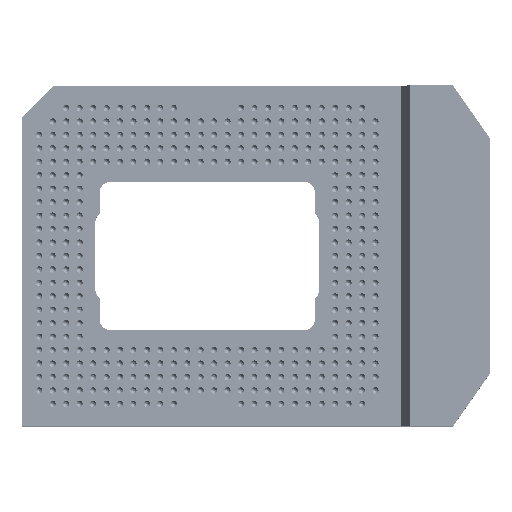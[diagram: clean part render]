
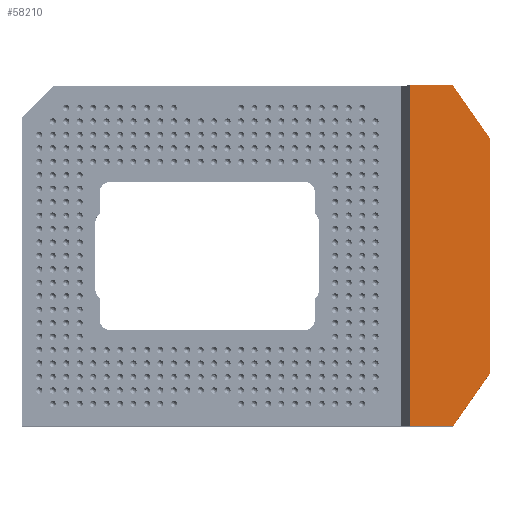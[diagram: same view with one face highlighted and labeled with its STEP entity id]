
A CAD part, top view. The second image highlights one B-rep face of the part: STEP entity #58210.
In plain terms, the highlighted planar face has unit normal (0, 0, 1).
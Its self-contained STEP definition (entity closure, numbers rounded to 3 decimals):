
#58121=CARTESIAN_POINT('',(22.813,16.1,4.1));
#58122=VERTEX_POINT('',#58121);
#58123=CARTESIAN_POINT('',(26.313,11.1,4.1));
#58124=VERTEX_POINT('',#58123);
#58125=CARTESIAN_POINT('',(22.813,16.1,4.1));
#58126=DIRECTION('',(0.573,-0.819,0.0));
#58127=VECTOR('',#58126,6.103);
#58128=LINE('',#58125,#58127);
#58129=EDGE_CURVE('',#58122,#58124,#58128,.T.);
#58153=CARTESIAN_POINT('',(26.313,-11.1,4.1));
#58154=VERTEX_POINT('',#58153);
#58155=CARTESIAN_POINT('',(26.313,11.1,4.1));
#58156=DIRECTION('',(0.0,-1.0,0.0));
#58157=VECTOR('',#58156,22.2);
#58158=LINE('',#58155,#58157);
#58159=EDGE_CURVE('',#58124,#58154,#58158,.T.);
#58171=CARTESIAN_POINT('',(22.113,0.,4.1));
#58172=DIRECTION('',(0.0,0.0,1.0));
#58173=DIRECTION('',(1.0,0.0,0.0));
#58174=AXIS2_PLACEMENT_3D('',#58171,#58172,#58173);
#58175=PLANE('',#58174);
#58176=ORIENTED_EDGE('',*,*,#58129,.F.);
#58177=CARTESIAN_POINT('',(18.75,16.1,4.1));
#58178=VERTEX_POINT('',#58177);
#58179=CARTESIAN_POINT('',(18.75,16.1,4.1));
#58180=DIRECTION('',(1.0,0.0,0.0));
#58181=VECTOR('',#58180,4.063);
#58182=LINE('',#58179,#58181);
#58183=EDGE_CURVE('',#58178,#58122,#58182,.T.);
#58184=ORIENTED_EDGE('',*,*,#58183,.F.);
#58185=CARTESIAN_POINT('',(18.75,-16.1,4.1));
#58186=VERTEX_POINT('',#58185);
#58187=CARTESIAN_POINT('',(18.75,16.1,4.1));
#58188=DIRECTION('',(0.0,-1.0,0.0));
#58189=VECTOR('',#58188,32.2);
#58190=LINE('',#58187,#58189);
#58191=EDGE_CURVE('',#58178,#58186,#58190,.T.);
#58192=ORIENTED_EDGE('',*,*,#58191,.T.);
#58193=CARTESIAN_POINT('',(22.813,-16.1,4.1));
#58194=VERTEX_POINT('',#58193);
#58195=CARTESIAN_POINT('',(22.813,-16.1,4.1));
#58196=DIRECTION('',(-1.0,0.0,0.0));
#58197=VECTOR('',#58196,4.063);
#58198=LINE('',#58195,#58197);
#58199=EDGE_CURVE('',#58194,#58186,#58198,.T.);
#58200=ORIENTED_EDGE('',*,*,#58199,.F.);
#58201=CARTESIAN_POINT('',(26.313,-11.1,4.1));
#58202=DIRECTION('',(-0.573,-0.819,0.0));
#58203=VECTOR('',#58202,6.103);
#58204=LINE('',#58201,#58203);
#58205=EDGE_CURVE('',#58154,#58194,#58204,.T.);
#58206=ORIENTED_EDGE('',*,*,#58205,.F.);
#58207=ORIENTED_EDGE('',*,*,#58159,.F.);
#58208=EDGE_LOOP('',(#58176,#58184,#58192,#58200,#58206,#58207));
#58209=FACE_OUTER_BOUND('',#58208,.T.);
#58210=ADVANCED_FACE('',(#58209),#58175,.T.);
